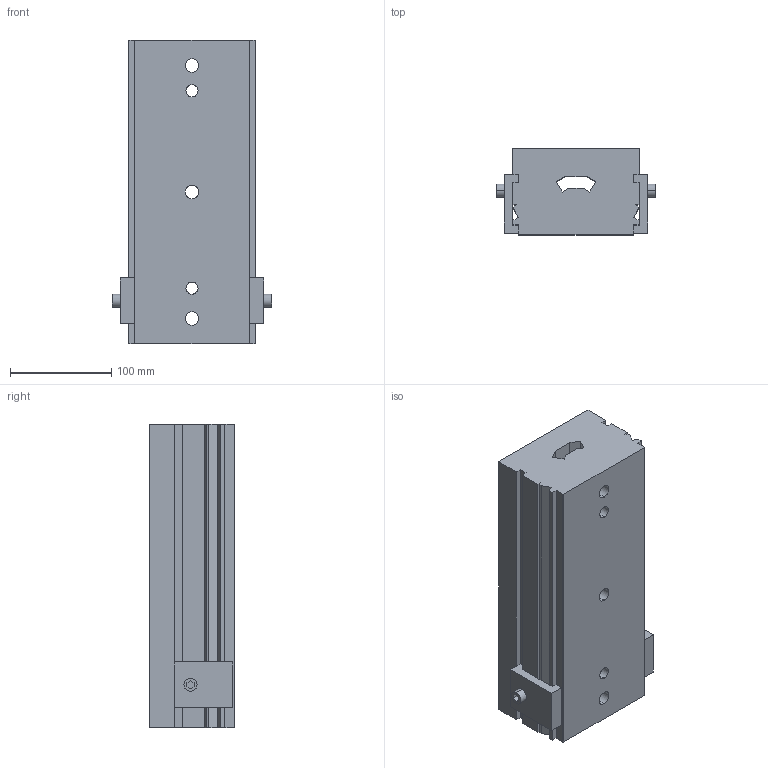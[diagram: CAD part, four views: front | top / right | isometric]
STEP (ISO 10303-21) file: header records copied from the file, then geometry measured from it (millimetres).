
FILE_DESCRIPTION(('CATIA V5 STEP Exchange'),'2;1');
FILE_NAME('C:\Users\Raffaele\Desktop\3D X SITO CF\A945-01\GSB_OILLESS_G24501123001BC\A945-01-1230-01-S-BC.stp','2019-07-10T14:30:10+00:00',('none'),('none'),'CATIA Version 5 Release 20 GA (IN-10)','CATIA V5 STEP AP203','none');
FILE_SCHEMA(('CONFIG_CONTROL_DESIGN'));
Length unit declared in the file: millimetre
Products named in the file (1): A945-01-1230-01-S-BC
Bounding box: 158 x 85 x 300 mm (x, y, z)
Volume: 2980590.9 mm3; surface area: 205525.6 mm2
Topology: 1 solids, 1 shells, 104 faces, 342 edges, 240 vertices
Faces by surface type: plane 80, cylinder 24
Entity records: 4048 total; most frequent: CARTESIAN_POINT 967, ORIENTED_EDGE 684, DIRECTION 530, EDGE_CURVE 342, VECTOR 246, LINE 246, VERTEX_POINT 240, AXIS2_PLACEMENT_3D 181
